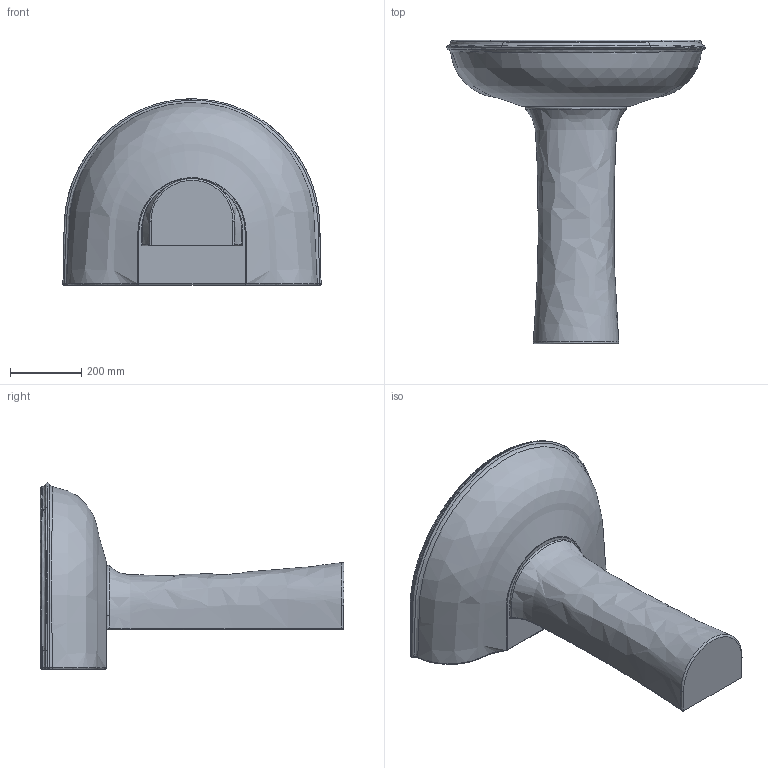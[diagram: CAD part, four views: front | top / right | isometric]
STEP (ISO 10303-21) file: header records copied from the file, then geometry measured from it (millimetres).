
FILE_DESCRIPTION (( 'STEP AP203' ), '1' );
FILE_NAME ('CHLP07051T0M-CHCLT0000000.STEP', '2022-11-17T15:51:50', ( '' ), ( '' ), 'SwSTEP 2.0', 'SolidWorks 2021', '' );
FILE_SCHEMA (( 'CONFIG_CONTROL_DESIGN' ));
Length unit declared in the file: millimetre
Products named in the file (3): lavabo tondo 70X51 sosp; CHLP07051T0M-CHCLT0000000; CHA300
Assembly tree (2 placements, depth 2):
  CHLP07051T0M-CHCLT0000000
    lavabo tondo 70X51 sosp
    CHA300
Bounding box: 722.59 x 850 x 521.52 mm (x, y, z)
Volume: 50294838.4 mm3; surface area: 1543728.9 mm2
Topology: 2 solids, 2 shells, 86 faces, 201 edges, 125 vertices
Faces by surface type: bspline 56, plane 15, cylinder 12, torus 2, cone 1
Full cylindrical faces by diameter (mm): 25 x1, 35 x1, 46 x1, 70 x1
Entity records: 15388 total; most frequent: CARTESIAN_POINT 13554, ORIENTED_EDGE 376, DIRECTION 216, EDGE_CURVE 188, VERTEX_POINT 120, B_SPLINE_CURVE_WITH_KNOTS 102, EDGE_LOOP 102, AXIS2_PLACEMENT_3D 95
